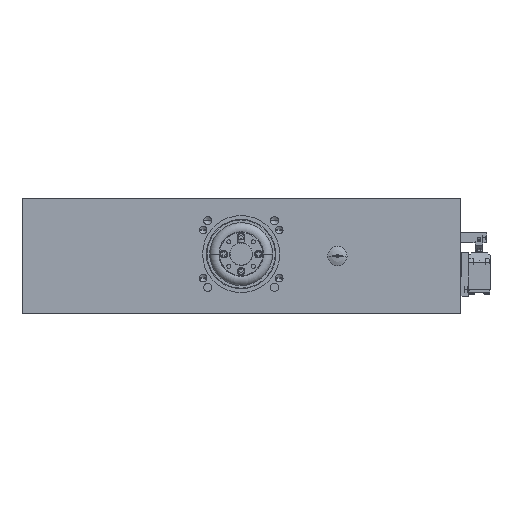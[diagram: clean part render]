
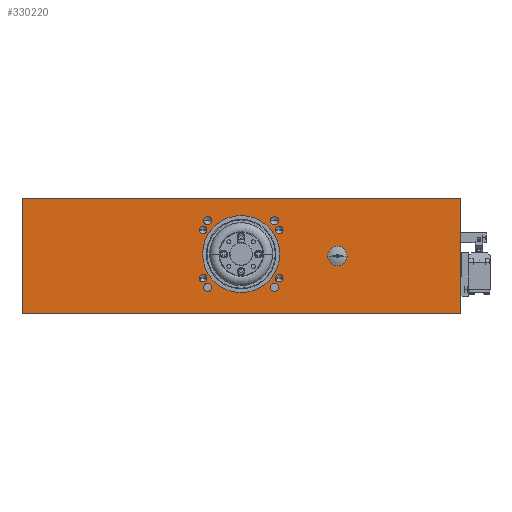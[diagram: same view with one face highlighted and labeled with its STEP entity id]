
A CAD part, front view. The second image highlights one B-rep face of the part: STEP entity #330220.
In plain terms, the highlighted planar face has unit normal (0, -1, 0) as drawn and (-1, 0, 0) by its records, which use the part's own axes.
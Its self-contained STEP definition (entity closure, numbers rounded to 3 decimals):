
#325050=CARTESIAN_POINT('',(-120.,1371.483,-49.828));
#325060=VERTEX_POINT('',#325050);
#325090=CARTESIAN_POINT('',(-120.,1371.483,-132.828));
#325100=DIRECTION('',(0.,0.,1.));
#325110=VECTOR('',#325100,1.);
#325120=LINE('',#325090,#325110);
#325130=CARTESIAN_POINT('',(-120.,1371.483,-169.628));
#325140=VERTEX_POINT('',#325130);
#325150=EDGE_CURVE('',#325140,#325060,#325120,.T.);
#328420=CARTESIAN_POINT('',(-120.,1371.483,-132.828));
#328430=DIRECTION('',(-1.,0.,0.));
#328440=DIRECTION('',(0.,1.,0.));
#328450=AXIS2_PLACEMENT_3D('',#328420,#328430,#328440);
#328460=PLANE('',#328450);
#328470=CARTESIAN_POINT('',(-120.,1004.669,-49.828));
#328480=DIRECTION('',(0.,-1.,0.));
#328490=VECTOR('',#328480,1.);
#328500=LINE('',#328470,#328490);
#328510=CARTESIAN_POINT('',(-120.,916.483,-49.828));
#328520=VERTEX_POINT('',#328510);
#328530=EDGE_CURVE('',#325060,#328520,#328500,.T.);
#328540=ORIENTED_EDGE('',*,*,#328530,.F.);
#328550=CARTESIAN_POINT('',(-120.,916.483,-132.828));
#328560=DIRECTION('',(0.,0.,-1.));
#328570=VECTOR('',#328560,1.);
#328580=LINE('',#328550,#328570);
#328590=CARTESIAN_POINT('',(-120.,916.483,-169.628));
#328600=VERTEX_POINT('',#328590);
#328610=EDGE_CURVE('',#328520,#328600,#328580,.T.);
#328620=ORIENTED_EDGE('',*,*,#328610,.F.);
#328630=CARTESIAN_POINT('',(-120.,1004.669,-169.628));
#328640=DIRECTION('',(0.,-1.,0.));
#328650=VECTOR('',#328640,1.);
#328660=LINE('',#328630,#328650);
#328670=EDGE_CURVE('',#325140,#328600,#328660,.T.);
#328680=ORIENTED_EDGE('',*,*,#328670,.T.);
#328690=ORIENTED_EDGE('',*,*,#325150,.F.);
#328700=EDGE_LOOP('',(#328690,#328680,#328620,#328540));
#328710=FACE_OUTER_BOUND('',#328700,.T.);
#328720=CARTESIAN_POINT('',(-120.,1143.983,-107.828));
#328730=DIRECTION('',(-1.,0.,0.));
#328740=DIRECTION('',(0.,-1.,0.));
#328750=AXIS2_PLACEMENT_3D('',#328720,#328730,#328740);
#328760=CIRCLE('',#328750,40.);
#328770=CARTESIAN_POINT('',(-120.,1103.983,-107.828));
#328780=VERTEX_POINT('',#328770);
#328790=CARTESIAN_POINT('',(-120.,1183.983,-107.828));
#328800=VERTEX_POINT('',#328790);
#328810=EDGE_CURVE('',#328780,#328800,#328760,.T.);
#328820=ORIENTED_EDGE('',*,*,#328810,.F.);
#328830=EDGE_CURVE('',#328800,#328780,#328760,.T.);
#328840=ORIENTED_EDGE('',*,*,#328830,.F.);
#328850=EDGE_LOOP('',(#328840,#328820));
#328860=FACE_BOUND('',#328850,.T.);
#328870=CARTESIAN_POINT('',(-120.,1183.483,-82.828));
#328880=DIRECTION('',(-1.,0.,0.));
#328890=DIRECTION('',(0.,1.,0.));
#328900=AXIS2_PLACEMENT_3D('',#328870,#328880,#328890);
#328910=CIRCLE('',#328900,4.);
#328920=CARTESIAN_POINT('',(-120.,1187.483,-82.828));
#328930=VERTEX_POINT('',#328920);
#328940=CARTESIAN_POINT('',(-120.,1179.483,-82.828));
#328950=VERTEX_POINT('',#328940);
#328960=EDGE_CURVE('',#328930,#328950,#328910,.T.);
#328970=ORIENTED_EDGE('',*,*,#328960,.F.);
#328980=EDGE_CURVE('',#328950,#328930,#328910,.T.);
#328990=ORIENTED_EDGE('',*,*,#328980,.F.);
#329000=EDGE_LOOP('',(#328990,#328970));
#329010=FACE_BOUND('',#329000,.T.);
#329020=CARTESIAN_POINT('',(-120.,1183.483,-132.828));
#329030=DIRECTION('',(-1.,0.,0.));
#329040=DIRECTION('',(0.,1.,0.));
#329050=AXIS2_PLACEMENT_3D('',#329020,#329030,#329040);
#329060=CIRCLE('',#329050,4.);
#329070=CARTESIAN_POINT('',(-120.,1187.483,-132.828));
#329080=VERTEX_POINT('',#329070);
#329090=CARTESIAN_POINT('',(-120.,1179.483,-132.828));
#329100=VERTEX_POINT('',#329090);
#329110=EDGE_CURVE('',#329080,#329100,#329060,.T.);
#329120=ORIENTED_EDGE('',*,*,#329110,.F.);
#329130=EDGE_CURVE('',#329100,#329080,#329060,.T.);
#329140=ORIENTED_EDGE('',*,*,#329130,.F.);
#329150=EDGE_LOOP('',(#329140,#329120));
#329160=FACE_BOUND('',#329150,.T.);
#329170=CARTESIAN_POINT('',(-120.,1104.483,-132.828));
#329180=DIRECTION('',(-1.,0.,0.));
#329190=DIRECTION('',(0.,1.,0.));
#329200=AXIS2_PLACEMENT_3D('',#329170,#329180,#329190);
#329210=CIRCLE('',#329200,4.);
#329220=CARTESIAN_POINT('',(-120.,1108.483,-132.828));
#329230=VERTEX_POINT('',#329220);
#329240=CARTESIAN_POINT('',(-120.,1100.483,-132.828));
#329250=VERTEX_POINT('',#329240);
#329260=EDGE_CURVE('',#329230,#329250,#329210,.T.);
#329270=ORIENTED_EDGE('',*,*,#329260,.F.);
#329280=EDGE_CURVE('',#329250,#329230,#329210,.T.);
#329290=ORIENTED_EDGE('',*,*,#329280,.F.);
#329300=EDGE_LOOP('',(#329290,#329270));
#329310=FACE_BOUND('',#329300,.T.);
#329320=CARTESIAN_POINT('',(-120.,1109.333,-73.178));
#329330=DIRECTION('',(-1.,0.,0.));
#329340=DIRECTION('',(0.,1.,0.));
#329350=AXIS2_PLACEMENT_3D('',#329320,#329330,#329340);
#329360=CIRCLE('',#329350,4.25);
#329370=CARTESIAN_POINT('',(-120.,1113.583,-73.178));
#329380=VERTEX_POINT('',#329370);
#329390=CARTESIAN_POINT('',(-120.,1105.083,-73.178));
#329400=VERTEX_POINT('',#329390);
#329410=EDGE_CURVE('',#329380,#329400,#329360,.T.);
#329420=ORIENTED_EDGE('',*,*,#329410,.F.);
#329430=EDGE_CURVE('',#329400,#329380,#329360,.T.);
#329440=ORIENTED_EDGE('',*,*,#329430,.F.);
#329450=EDGE_LOOP('',(#329440,#329420));
#329460=FACE_BOUND('',#329450,.T.);
#329470=CARTESIAN_POINT('',(-120.,1178.633,-73.178));
#329480=DIRECTION('',(-1.,0.,0.));
#329490=DIRECTION('',(0.,1.,0.));
#329500=AXIS2_PLACEMENT_3D('',#329470,#329480,#329490);
#329510=CIRCLE('',#329500,4.25);
#329520=CARTESIAN_POINT('',(-120.,1182.883,-73.178));
#329530=VERTEX_POINT('',#329520);
#329540=CARTESIAN_POINT('',(-120.,1174.383,-73.178));
#329550=VERTEX_POINT('',#329540);
#329560=EDGE_CURVE('',#329530,#329550,#329510,.T.);
#329570=ORIENTED_EDGE('',*,*,#329560,.F.);
#329580=EDGE_CURVE('',#329550,#329530,#329510,.T.);
#329590=ORIENTED_EDGE('',*,*,#329580,.F.);
#329600=EDGE_LOOP('',(#329590,#329570));
#329610=FACE_BOUND('',#329600,.T.);
#329620=CARTESIAN_POINT('',(-120.,1178.633,-142.478));
#329630=DIRECTION('',(-1.,0.,0.));
#329640=DIRECTION('',(0.,1.,0.));
#329650=AXIS2_PLACEMENT_3D('',#329620,#329630,#329640);
#329660=CIRCLE('',#329650,4.25);
#329670=CARTESIAN_POINT('',(-120.,1182.883,-142.478));
#329680=VERTEX_POINT('',#329670);
#329690=CARTESIAN_POINT('',(-120.,1174.383,-142.478));
#329700=VERTEX_POINT('',#329690);
#329710=EDGE_CURVE('',#329680,#329700,#329660,.T.);
#329720=ORIENTED_EDGE('',*,*,#329710,.F.);
#329730=EDGE_CURVE('',#329700,#329680,#329660,.T.);
#329740=ORIENTED_EDGE('',*,*,#329730,.F.);
#329750=EDGE_LOOP('',(#329740,#329720));
#329760=FACE_BOUND('',#329750,.T.);
#329770=CARTESIAN_POINT('',(-120.,1109.333,-142.478));
#329780=DIRECTION('',(-1.,0.,0.));
#329790=DIRECTION('',(0.,1.,0.));
#329800=AXIS2_PLACEMENT_3D('',#329770,#329780,#329790);
#329810=CIRCLE('',#329800,4.25);
#329820=CARTESIAN_POINT('',(-120.,1113.583,-142.478));
#329830=VERTEX_POINT('',#329820);
#329840=CARTESIAN_POINT('',(-120.,1105.083,-142.478));
#329850=VERTEX_POINT('',#329840);
#329860=EDGE_CURVE('',#329830,#329850,#329810,.T.);
#329870=ORIENTED_EDGE('',*,*,#329860,.F.);
#329880=EDGE_CURVE('',#329850,#329830,#329810,.T.);
#329890=ORIENTED_EDGE('',*,*,#329880,.F.);
#329900=EDGE_LOOP('',(#329890,#329870));
#329910=FACE_BOUND('',#329900,.T.);
#329920=CARTESIAN_POINT('',(-120.,1104.483,-82.828));
#329930=DIRECTION('',(-1.,0.,0.));
#329940=DIRECTION('',(0.,1.,0.));
#329950=AXIS2_PLACEMENT_3D('',#329920,#329930,#329940);
#329960=CIRCLE('',#329950,4.);
#329970=CARTESIAN_POINT('',(-120.,1108.483,-82.828));
#329980=VERTEX_POINT('',#329970);
#329990=CARTESIAN_POINT('',(-120.,1100.483,-82.828));
#330000=VERTEX_POINT('',#329990);
#330010=EDGE_CURVE('',#329980,#330000,#329960,.T.);
#330020=ORIENTED_EDGE('',*,*,#330010,.F.);
#330030=EDGE_CURVE('',#330000,#329980,#329960,.T.);
#330040=ORIENTED_EDGE('',*,*,#330030,.F.);
#330050=EDGE_LOOP('',(#330040,#330020));
#330060=FACE_BOUND('',#330050,.T.);
#330070=CARTESIAN_POINT('',(-120.,1043.983,-109.828));
#330080=DIRECTION('',(-1.,0.,0.));
#330090=DIRECTION('',(0.,-1.,0.));
#330100=AXIS2_PLACEMENT_3D('',#330070,#330080,#330090);
#330110=CIRCLE('',#330100,10.);
#330120=CARTESIAN_POINT('',(-120.,1033.983,-109.828));
#330130=VERTEX_POINT('',#330120);
#330140=CARTESIAN_POINT('',(-120.,1053.983,-109.828));
#330150=VERTEX_POINT('',#330140);
#330160=EDGE_CURVE('',#330130,#330150,#330110,.T.);
#330170=ORIENTED_EDGE('',*,*,#330160,.F.);
#330180=EDGE_CURVE('',#330150,#330130,#330110,.T.);
#330190=ORIENTED_EDGE('',*,*,#330180,.F.);
#330200=EDGE_LOOP('',(#330190,#330170));
#330210=FACE_BOUND('',#330200,.T.);
#330220=ADVANCED_FACE('',(#328710,#328860,#329010,#329160,#329310,
#329460,#329610,#329760,#329910,#330060,#330210),#328460,.T.);
